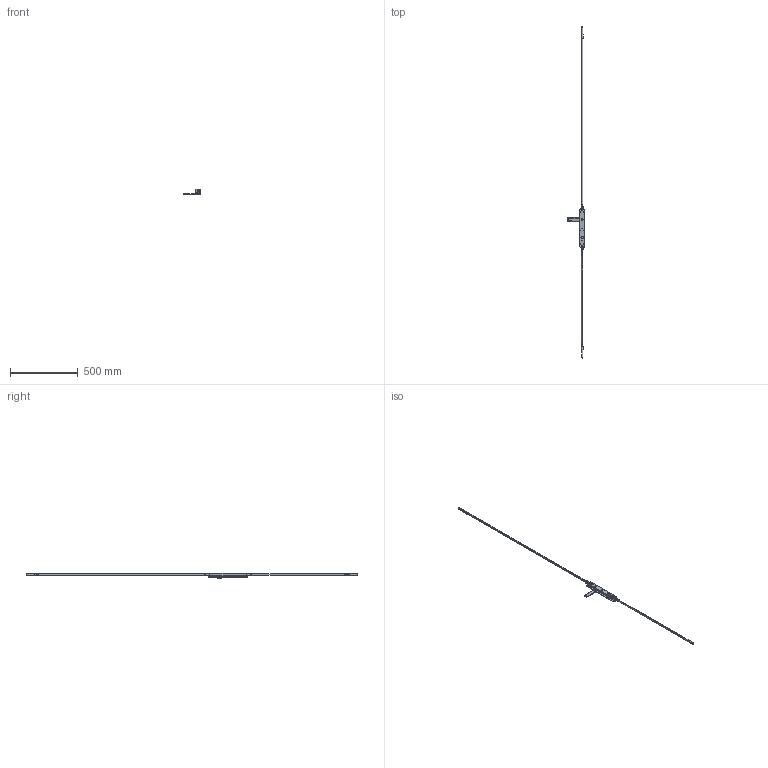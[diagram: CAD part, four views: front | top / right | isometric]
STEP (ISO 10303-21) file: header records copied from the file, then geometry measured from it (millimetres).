
FILE_DESCRIPTION (( 'STEP AP214' ), '1' );
FILE_NAME ('TPL-H-APC-103-B 17Oct2024.STEP', '2024-10-17T04:33:12', ( '' ), ( '' ), 'SwSTEP 2.0', 'SolidWorks 2023', '' );
FILE_SCHEMA (( 'AUTOMOTIVE_DESIGN' ));
Length unit declared in the file: millimetre
Products named in the file (17): Copy of TPLGen2 lock body keyed^Copy of TPLGen2 lock body keyed assembly_TPL-H-APC-604 16Oct2024_Left; Copy of LKC-576 Bolt adaptor - simplified^TPL-H-APC-604 16Oct2024; Copy of LKC-586 Spindle square 8mm with M4 hole^Copy of TPGen2 handle keyed internal zinc - simplified_TPL-H-APC-604 16Oct2024_25mm; TPL-H-APC-103-B 17Oct2024; Copy of TPLGen2 push rod - simplified^Copy of TPLGen2 lock body keyed assembly_TPL-H-APC-604 16Oct2024_Female thread M10; Copy of LKC-505 Swing handle zinc - simplified^Copy of TPGen2 handle keyed internal zinc - simplified_TPL-H-APC-604 16Oct2024; Copy of LKC-585 Rotator body zinc^Copy of TPGen2 handle keyed internal zinc - simplified_TPL-H-APC-604 16Oct2024; Copy of TPL-H-APC-515 04Oct2024^TPL-H-APC-604 16Oct2024; Copy of TPGen2 handle keyed internal zinc - simplified^TPL-H-APC-604 16Oct2024_Right; Copy of TPL-022 Lock cylinder single 3 pin 23mm^TPL-H-APC-604 16Oct2024_Left; Copy of TPL-H-APC-517 04Oct2024^TPL-H-APC-604 16Oct2024; Copy of LKC-540 Transmission rod aluminium system TPLGen2^TPL-H-APC-604 16Oct2024_2885mm; Copy of LKC-512 Escutcheon plate keyed internal 285mm long zinc - simplified^Copy of TPGen2 handle keyed internal zinc - simplified_TPL-H-APC-604 16Oct2024; Copy of LKC-584 Pivot body zinc - simplified^Copy of TPGen2 handle keyed internal zinc - simplified_TPL-H-APC-604 16Oct2024; Copy of LKC-532 Rod connector - simplified^TPL-H-APC-604 16Oct2024; Copy (2) of LKC-540 Transmission rod aluminium system TPLGen2^TPL-H-APC-604 16Oct2024_2885mm; Copy of TPLGen2 lock body keyed assembly^TPL-H-APC-604 16Oct2024_Bolts retracted - left
Assembly tree (22 placements, depth 3):
  TPL-H-APC-103-B 17Oct2024
    Copy of TPLGen2 lock body keyed assembly^TPL-H-APC-604 16Oct2024_Bolts retracted - left
      Copy of TPLGen2 lock body keyed^Copy of TPLGen2 lock body keyed assembly_TPL-H-APC-604 16Oct2024_Left
      Copy of TPLGen2 push rod - simplified^Copy of TPLGen2 lock body keyed assembly_TPL-H-APC-604 16Oct2024_Female thread M10  x2
    Copy of TPGen2 handle keyed internal zinc - simplified^TPL-H-APC-604 16Oct2024_Right
      Copy of LKC-512 Escutcheon plate keyed internal 285mm long zinc - simplified^Copy of TPGen2 handle keyed internal zinc - simplified_TPL-H-APC-604 16Oct2024
      Copy of LKC-505 Swing handle zinc - simplified^Copy of TPGen2 handle keyed internal zinc - simplified_TPL-H-APC-604 16Oct2024
      Copy of LKC-585 Rotator body zinc^Copy of TPGen2 handle keyed internal zinc - simplified_TPL-H-APC-604 16Oct2024
      Copy of LKC-586 Spindle square 8mm with M4 hole^Copy of TPGen2 handle keyed internal zinc - simplified_TPL-H-APC-604 16Oct2024_25mm
      Copy of LKC-584 Pivot body zinc - simplified^Copy of TPGen2 handle keyed internal zinc - simplified_TPL-H-APC-604 16Oct2024
    Copy of LKC-532 Rod connector - simplified^TPL-H-APC-604 16Oct2024  x2
    Copy of LKC-540 Transmission rod aluminium system TPLGen2^TPL-H-APC-604 16Oct2024_2885mm
    Copy (2) of LKC-540 Transmission rod aluminium system TPLGen2^TPL-H-APC-604 16Oct2024_2885mm
    Copy of LKC-576 Bolt adaptor - simplified^TPL-H-APC-604 16Oct2024  x2
    Copy of TPL-H-APC-517 04Oct2024^TPL-H-APC-604 16Oct2024  x2
    Copy of TPL-H-APC-515 04Oct2024^TPL-H-APC-604 16Oct2024  x3
    Copy of TPL-022 Lock cylinder single 3 pin 23mm^TPL-H-APC-604 16Oct2024_Left
Bounding box: 125.62 x 2445.9 x 42.36 mm (x, y, z)
Volume: 336965.2 mm3; surface area: 229400.3 mm2
Topology: 20 solids, 20 shells, 1318 faces, 3204 edges, 1940 vertices
Faces by surface type: cylinder 430, plane 395, bspline 224, cone 123, torus 113, sphere 33
Entity records: 33145 total; most frequent: CARTESIAN_POINT 13167, ORIENTED_EDGE 4212, DIRECTION 3909, EDGE_CURVE 2106, AXIS2_PLACEMENT_3D 1549, VERTEX_POINT 1285, EDGE_LOOP 987, FACE_OUTER_BOUND 888
